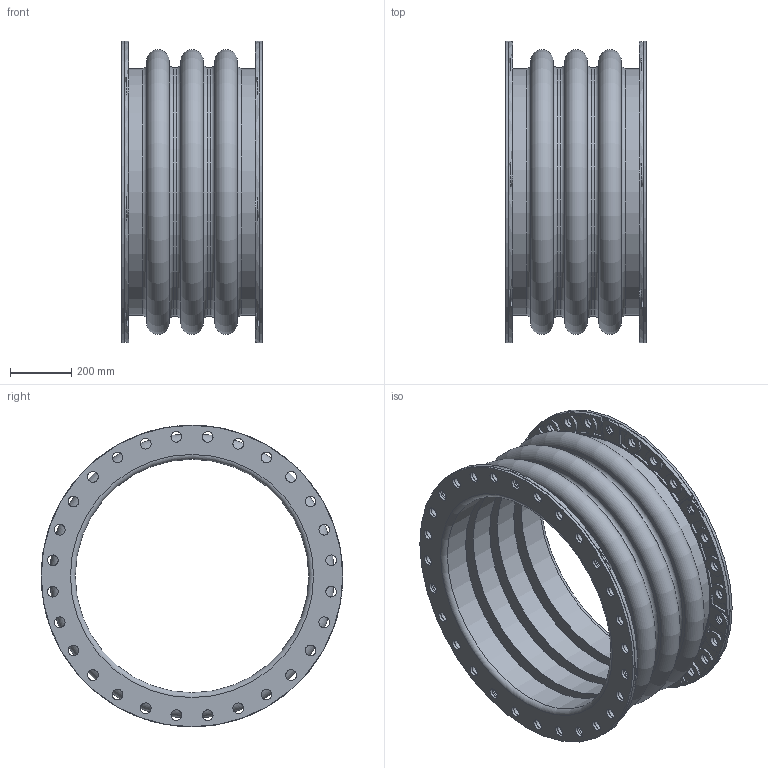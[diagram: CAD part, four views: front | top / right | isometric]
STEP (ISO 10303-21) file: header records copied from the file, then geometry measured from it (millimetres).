
FILE_DESCRIPTION(/* description */ (''),/* implementation_level */ '2;1');
FILE_NAME(/* name */ 'C:\001_Work\Designs\Mercer2014\MQInventor2014\RajR\500 Style\503\New folder\503 30IDx18FF.stp',/* time_stamp */ '2016-03-26T18:01:04-04:00',/* author */ ('rramoutar'),/* organization */ ('Mason Industries Inc.'),/* preprocessor_version */ 'ST-DEVELOPER v15.6',/* originating_system */ 'Autodesk Inventor 2015',/* authorisation */ '');
FILE_SCHEMA (('CONFIG_CONTROL_DESIGN'));
Length unit declared in the file: inch
Products named in the file (1): 503 30IDx18FF
Bounding box: 457.2 x 984.25 x 984.25 mm (x, y, z)
Volume: 51066956.6 mm3; surface area: 6028448 mm2
Topology: 3 solids, 3 shells, 1080 faces, 2968 edges, 1948 vertices
Faces by surface type: cylinder 712, plane 312, torus 44, cone 12
Full cylindrical faces by diameter (mm): 34.925 x56, 34.99 x70, 762 x4, 806.45 x2, 812.8 x2, 822.325 x2, 984.25 x2
Entity records: 36406 total; most frequent: CARTESIAN_POINT 6821, DIRECTION 6446, ORIENTED_EDGE 5544, EDGE_CURVE 2772, AXIS2_PLACEMENT_3D 2663, VERTEX_POINT 1918, CIRCLE 1582, EDGE_LOOP 1530
